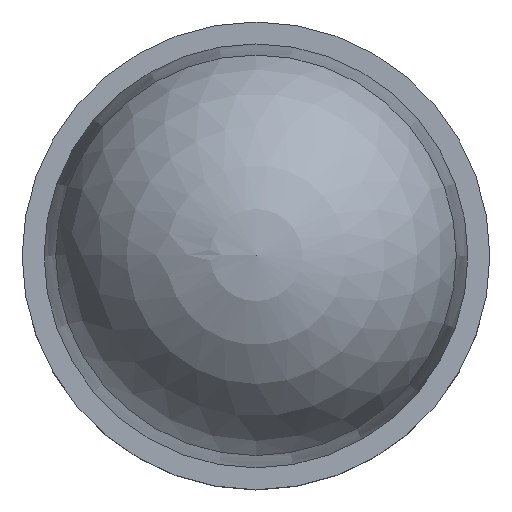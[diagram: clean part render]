
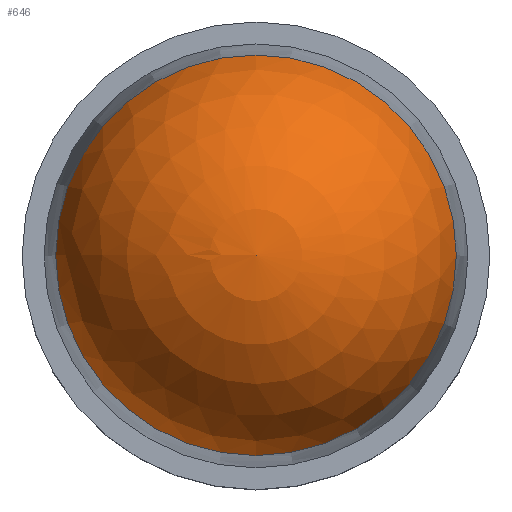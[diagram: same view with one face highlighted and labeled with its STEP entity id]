
A CAD part, top view. The second image highlights one B-rep face of the part: STEP entity #646.
In plain terms, the highlighted spherical face has radius 1.4 mm.
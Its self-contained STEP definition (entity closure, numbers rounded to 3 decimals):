
#19=SPHERICAL_SURFACE('',#710,1.4);
#39=CIRCLE('',#711,1.4);
#40=CIRCLE('',#712,1.37);
#41=CIRCLE('',#713,1.37);
#97=FACE_OUTER_BOUND('',#134,.T.);
#134=EDGE_LOOP('',(#582,#583,#584,#585));
#330=VERTEX_POINT('',#1253);
#331=VERTEX_POINT('',#1254);
#332=VERTEX_POINT('',#1256);
#418=EDGE_CURVE('',#330,#331,#39,.T.);
#419=EDGE_CURVE('',#332,#331,#40,.T.);
#420=EDGE_CURVE('',#331,#332,#41,.T.);
#582=ORIENTED_EDGE('',*,*,#418,.T.);
#583=ORIENTED_EDGE('',*,*,#419,.F.);
#584=ORIENTED_EDGE('',*,*,#420,.F.);
#585=ORIENTED_EDGE('',*,*,#418,.F.);
#646=ADVANCED_FACE('',(#97),#19,.T.);
#710=AXIS2_PLACEMENT_3D('',#1252,#857,#858);
#711=AXIS2_PLACEMENT_3D('',#1255,#859,#860);
#712=AXIS2_PLACEMENT_3D('',#1257,#861,#862);
#713=AXIS2_PLACEMENT_3D('',#1258,#863,#864);
#857=DIRECTION('center_axis',(0.,0.,1.));
#858=DIRECTION('ref_axis',(1.,0.,0.));
#859=DIRECTION('center_axis',(0.,-1.,0.));
#860=DIRECTION('ref_axis',(-1.,0.,0.));
#861=DIRECTION('center_axis',(0.,0.,-1.));
#862=DIRECTION('ref_axis',(-1.,0.,0.));
#863=DIRECTION('center_axis',(0.,0.,-1.));
#864=DIRECTION('ref_axis',(-1.,0.,0.));
#1252=CARTESIAN_POINT('Origin',(0.,0.,2.5));
#1253=CARTESIAN_POINT('',(0.,0.,3.9));
#1254=CARTESIAN_POINT('',(-1.37,0.,2.788));
#1255=CARTESIAN_POINT('Origin',(0.,0.,2.5));
#1256=CARTESIAN_POINT('',(1.37,0.,2.788));
#1257=CARTESIAN_POINT('Origin',(0.,0.,2.788));
#1258=CARTESIAN_POINT('Origin',(0.,0.,2.788));
